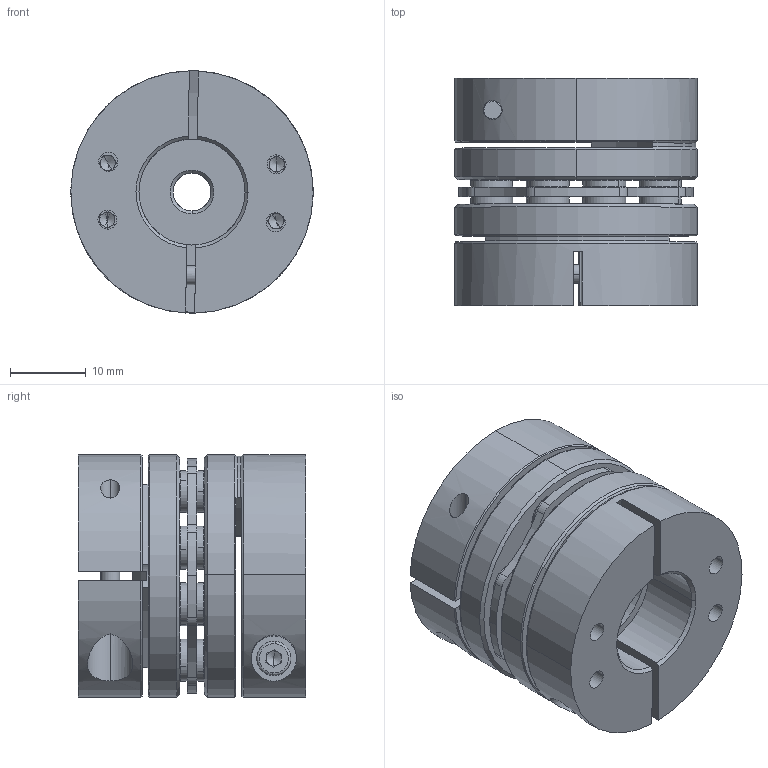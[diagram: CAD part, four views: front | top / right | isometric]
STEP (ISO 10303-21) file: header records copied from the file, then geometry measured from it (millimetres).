
FILE_DESCRIPTION (( 'STEP AP203' ), '1' );
FILE_NAME ('LDG-32-B1-5-14.STEP', '2021-10-28T05:04:13', ( '' ), ( '' ), 'SwSTEP 2.0', 'SolidWorks 2018', '' );
FILE_SCHEMA (( 'CONFIG_CONTROL_DESIGN' ));
Length unit declared in the file: millimetre
Products named in the file (2): LDG-32-B1-5-14; 錨璃5^LDG-32蚾饜芞1
Assembly tree (1 placements, depth 2):
  LDG-32-B1-5-14
    錨璃5^LDG-32蚾饜芞1
Bounding box: 32 x 30 x 32 mm (x, y, z)
Volume: 17635.7 mm3; surface area: 13142.4 mm2
Topology: 1 solids, 11 shells, 795 faces, 1967 edges, 1216 vertices
Faces by surface type: cylinder 301, plane 244, cone 230, torus 20
Entity records: 24193 total; most frequent: CARTESIAN_POINT 4474, DIRECTION 4465, ORIENTED_EDGE 3878, EDGE_CURVE 1939, AXIS2_PLACEMENT_3D 1819, VERTEX_POINT 1216, CIRCLE 1020, EDGE_LOOP 939
